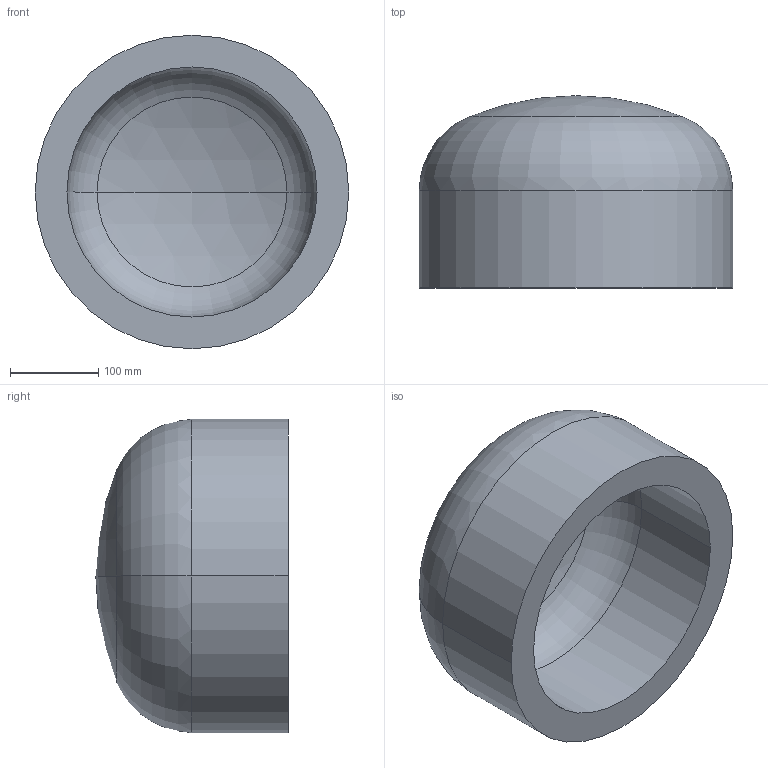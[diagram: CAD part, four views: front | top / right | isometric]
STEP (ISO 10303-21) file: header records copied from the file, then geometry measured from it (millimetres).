
FILE_DESCRIPTION (( 'STEP AP203' ), '1' );
FILE_NAME ('DIN 28013 Korbbogenform_-_Boden DIN 28013 - 355,6 x 110 - I - s=36.step', '2016-07-01T07:47:53', ( '' ), ( '' ), 'SwSTEP 2.0', 'SolidWorks 2013', '' );
FILE_SCHEMA (( 'CONFIG_CONTROL_DESIGN' ));
Length unit declared in the file: millimetre
Products named in the file (1): DIN 28013 Korbbogenform_-_Boden DIN 28013 - 355,6 x 110 - I - s=36
Bounding box: 355.6 x 218.09 x 355.6 mm (x, y, z)
Volume: 8349480.3 mm3; surface area: 502720.2 mm2
Topology: 1 solids, 1 shells, 13 faces, 24 edges, 14 vertices
Faces by surface type: torus 4, cylinder 4, sphere 4, plane 1
Entity records: 407 total; most frequent: DIRECTION 72, CARTESIAN_POINT 52, ORIENTED_EDGE 48, AXIS2_PLACEMENT_3D 34, EDGE_CURVE 24, CIRCLE 20, EDGE_LOOP 14, VERTEX_POINT 14
